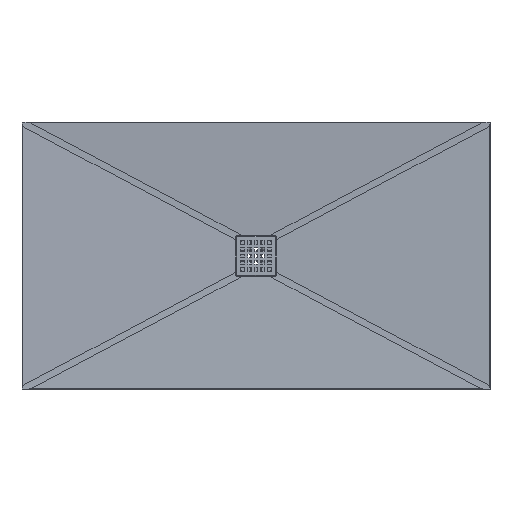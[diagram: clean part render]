
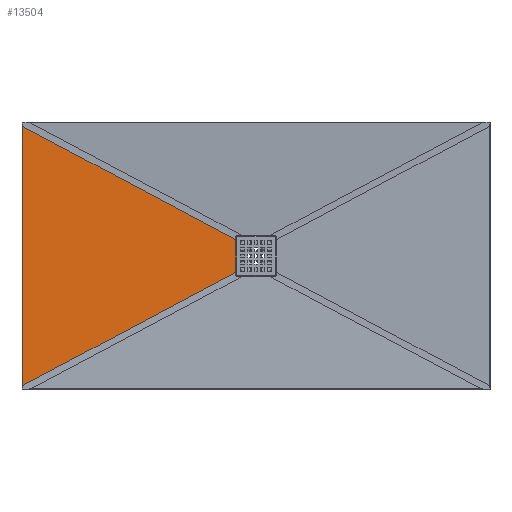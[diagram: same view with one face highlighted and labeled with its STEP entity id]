
A CAD part, top view. The second image highlights one B-rep face of the part: STEP entity #13504.
In plain terms, the highlighted free-form (B-spline) face has degree [1, 1] with [2, 2] control points.
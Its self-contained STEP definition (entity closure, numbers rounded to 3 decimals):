
#389 = CARTESIAN_POINT ( 'NONE',  ( -697.938, 387.6, -0.064 ) ) ;
#783 = CARTESIAN_POINT ( 'NONE',  ( -697.938, -387.6, -0.064 ) ) ;
#970 = CARTESIAN_POINT ( 'NONE',  ( -60.969, 36.86, -19.97 ) ) ;
#1206 = CARTESIAN_POINT ( 'NONE',  ( -170.641, 107.474, -16.542 ) ) ;
#1303 = FACE_OUTER_BOUND ( 'NONE', #8798, .T. ) ;
#1492 = CARTESIAN_POINT ( 'NONE',  ( -60.969, -49.21, -19.97 ) ) ;
#1767 = CARTESIAN_POINT ( 'NONE',  ( -626.275, 349.529, -2.304 ) ) ;
#1955 = CARTESIAN_POINT ( 'NONE',  ( -315.906, -184.646, -12.003 ) ) ;
#2031 = EDGE_CURVE ( 'NONE', #14220, #7721, #9765, .T. ) ;
#2153 = CARTESIAN_POINT ( 'NONE',  ( -60.969, 49.21, -19.97 ) ) ;
#2334 = CARTESIAN_POINT ( 'NONE',  ( -697.938, -387.6, -0.064 ) ) ;
#3309 = CARTESIAN_POINT ( 'NONE',  ( -60.969, 49.21, -19.97 ) ) ;
#4001 = B_SPLINE_CURVE_WITH_KNOTS ( 'NONE', 3,
 ( #37880, #17522, #5294, #35519, #14244 ),
 .UNSPECIFIED., .F., .F.,
 ( 4, 1, 4 ),
 ( 0., 246.328, 775.2 ),
 .UNSPECIFIED. ) ;
#4692 = ORIENTED_EDGE ( 'NONE', *, *, #9911, .F. ) ;
#5053 = CARTESIAN_POINT ( 'NONE',  ( -195.381, 120.617, -15.769 ) ) ;
#5234 = CARTESIAN_POINT ( 'NONE',  ( -286.287, -168.911, -12.929 ) ) ;
#5294 = CARTESIAN_POINT ( 'NONE',  ( -697.938, -47.091, -0.064 ) ) ;
#5447 = CARTESIAN_POINT ( 'NONE',  ( -80.486, 59.579, -19.36 ) ) ;
#7235 = CARTESIAN_POINT ( 'NONE',  ( -498.221, 281.5, -6.306 ) ) ;
#7431 = CARTESIAN_POINT ( 'NONE',  ( -445.241, 253.355, -7.961 ) ) ;
#7601 = CARTESIAN_POINT ( 'NONE',  ( -106.217, -73.249, -18.556 ) ) ;
#7721 = VERTEX_POINT ( 'NONE', #1492 ) ;
#7987 = CARTESIAN_POINT ( 'NONE',  ( -498.221, -281.5, -6.306 ) ) ;
#7994 = CARTESIAN_POINT ( 'NONE',  ( -254.873, 152.222, -13.91 ) ) ;
#8166 = VERTEX_POINT ( 'NONE', #783 ) ;
#8561 = CARTESIAN_POINT ( 'NONE',  ( -62.627, -50.091, -19.918 ) ) ;
#8798 = EDGE_LOOP ( 'NONE', ( #20443, #4692, #11813, #19230 ) ) ;
#8951 = CARTESIAN_POINT ( 'NONE',  ( -106.217, 73.249, -18.556 ) ) ;
#9765 = B_SPLINE_CURVE_WITH_KNOTS ( 'NONE', 3,
 ( #3309, #970, #24638, #21538, #12239 ),
 .UNSPECIFIED., .F., .F.,
 ( 4, 1, 4 ),
 ( 0., 37.05, 98.421 ),
 .UNSPECIFIED. ) ;
#9911 = EDGE_CURVE ( 'NONE', #8166, #15413, #4001, .T. ) ;
#10054 = CARTESIAN_POINT ( 'NONE',  ( -60.968, 58.799, -19.97 ) ) ;
#11813 = ORIENTED_EDGE ( 'NONE', *, *, #17305, .T. ) ;
#12218 = B_SPLINE_CURVE_WITH_KNOTS ( 'NONE', 3,
 ( #2334, #13987, #22507, #14179, #7987, #34292, #25781, #28119, #1955, #5234, #31588, #13401, #34679, #16887, #28713, #37029, #22322, #7601, #19424, #35648, #35269, #8561, #14938 ),
 .UNSPECIFIED., .F., .F.,
 ( 4, 1, 1, 1, 1, 1, 1, 1, 1, 1, 1, 1, 1, 1, 1, 1, 1, 1, 1, 1, 4 ),
 ( 2.336, 82.983, 165.224, 225.239, 295.255, 345.267, 400.528, 434.08, 470.682, 501.184, 540.836, 571.338, 602.701, 624.913, 644.657, 658.231, 673.04, 686.614, 700.466, 718.251, 723.885 ),
 .UNSPECIFIED. ) ;
#12239 = CARTESIAN_POINT ( 'NONE',  ( -60.969, -49.21, -19.97 ) ) ;
#13159 = EDGE_CURVE ( 'NONE', #15413, #14220, #23974, .T. ) ;
#13401 = CARTESIAN_POINT ( 'NONE',  ( -225.254, -136.487, -14.836 ) ) ;
#13504 = ADVANCED_FACE ( 'NONE', ( #1303 ), #18058, .F. ) ;
#13614 = CARTESIAN_POINT ( 'NONE',  ( -352.81, 204.251, -10.85 ) ) ;
#13987 = CARTESIAN_POINT ( 'NONE',  ( -674.207, -374.993, -0.806 ) ) ;
#14179 = CARTESIAN_POINT ( 'NONE',  ( -560.684, -314.684, -4.354 ) ) ;
#14220 = VERTEX_POINT ( 'NONE', #24962 ) ;
#14244 = CARTESIAN_POINT ( 'NONE',  ( -697.938, 387.6, -0.064 ) ) ;
#14938 = CARTESIAN_POINT ( 'NONE',  ( -60.969, -49.21, -19.97 ) ) ;
#15413 = VERTEX_POINT ( 'NONE', #389 ) ;
#16887 = CARTESIAN_POINT ( 'NONE',  ( -170.641, -107.474, -16.542 ) ) ;
#17305 = EDGE_CURVE ( 'NONE', #8166, #7721, #12218, .T. ) ;
#17522 = CARTESIAN_POINT ( 'NONE',  ( -697.938, -305.491, -0.064 ) ) ;
#18058 = B_SPLINE_SURFACE_WITH_KNOTS ( 'NONE', 1, 1, ( 
 ( #36584, #22052 ),
 ( #33257, #10054 ) ),
 .UNSPECIFIED., .F., .F., .F.,
 ( 2, 2 ),
 ( 2, 2 ),
 ( 0., 777.329 ),
 ( 0., 1. ),
 .UNSPECIFIED. ) ;
#19230 = ORIENTED_EDGE ( 'NONE', *, *, #2031, .F. ) ;
#19243 = CARTESIAN_POINT ( 'NONE',  ( -393.661, 225.953, -9.573 ) ) ;
#19424 = CARTESIAN_POINT ( 'NONE',  ( -93.79, -66.646, -18.944 ) ) ;
#20443 = ORIENTED_EDGE ( 'NONE', *, *, #13159, .F. ) ;
#20596 = CARTESIAN_POINT ( 'NONE',  ( -93.79, 66.646, -18.944 ) ) ;
#21538 = CARTESIAN_POINT ( 'NONE',  ( -60.969, -28.753, -19.97 ) ) ;
#22052 = CARTESIAN_POINT ( 'NONE',  ( -60.968, -58.799, -19.97 ) ) ;
#22322 = CARTESIAN_POINT ( 'NONE',  ( -118.564, -79.808, -18.17 ) ) ;
#22507 = CARTESIAN_POINT ( 'NONE',  ( -626.275, -349.529, -2.304 ) ) ;
#23974 = B_SPLINE_CURVE_WITH_KNOTS ( 'NONE', 3,
 ( #28323, #31215, #1767, #33733, #7235, #7431, #19243, #13614, #25424, #34301, #7994, #31597, #5053, #1206, #24866, #28719, #26371, #8951, #20596, #5447, #32356, #38208, #2153 ),
 .UNSPECIFIED., .F., .F.,
 ( 4, 1, 1, 1, 1, 1, 1, 1, 1, 1, 1, 1, 1, 1, 1, 1, 1, 1, 1, 1, 4 ),
 ( 2.336, 82.983, 165.224, 225.239, 295.255, 345.267, 400.528, 434.08, 470.682, 501.184, 540.836, 571.338, 602.701, 624.913, 644.657, 658.231, 673.04, 686.614, 700.466, 718.251, 723.885 ),
 .UNSPECIFIED. ) ;
#24638 = CARTESIAN_POINT ( 'NONE',  ( -60.969, 4.053, -19.97 ) ) ;
#24866 = CARTESIAN_POINT ( 'NONE',  ( -149.066, 96.012, -17.217 ) ) ;
#24962 = CARTESIAN_POINT ( 'NONE',  ( -60.969, 49.21, -19.97 ) ) ;
#25424 = CARTESIAN_POINT ( 'NONE',  ( -315.906, 184.646, -12.003 ) ) ;
#25781 = CARTESIAN_POINT ( 'NONE',  ( -393.661, -225.953, -9.573 ) ) ;
#26371 = CARTESIAN_POINT ( 'NONE',  ( -118.564, 79.808, -18.17 ) ) ;
#28119 = CARTESIAN_POINT ( 'NONE',  ( -352.81, -204.251, -10.85 ) ) ;
#28323 = CARTESIAN_POINT ( 'NONE',  ( -697.938, 387.6, -0.064 ) ) ;
#28713 = CARTESIAN_POINT ( 'NONE',  ( -149.066, -96.012, -17.217 ) ) ;
#28719 = CARTESIAN_POINT ( 'NONE',  ( -132.725, 87.331, -17.727 ) ) ;
#31215 = CARTESIAN_POINT ( 'NONE',  ( -674.207, 374.993, -0.806 ) ) ;
#31588 = CARTESIAN_POINT ( 'NONE',  ( -254.873, -152.222, -13.91 ) ) ;
#31597 = CARTESIAN_POINT ( 'NONE',  ( -225.254, 136.487, -14.836 ) ) ;
#32356 = CARTESIAN_POINT ( 'NONE',  ( -69.518, 53.752, -19.703 ) ) ;
#33257 = CARTESIAN_POINT ( 'NONE',  ( -697.939, 387.601, -0.064 ) ) ;
#33733 = CARTESIAN_POINT ( 'NONE',  ( -560.684, 314.684, -4.354 ) ) ;
#34292 = CARTESIAN_POINT ( 'NONE',  ( -445.241, -253.355, -7.961 ) ) ;
#34301 = CARTESIAN_POINT ( 'NONE',  ( -286.287, 168.911, -12.929 ) ) ;
#34679 = CARTESIAN_POINT ( 'NONE',  ( -195.381, -120.617, -15.769 ) ) ;
#35269 = CARTESIAN_POINT ( 'NONE',  ( -69.518, -53.752, -19.703 ) ) ;
#35519 = CARTESIAN_POINT ( 'NONE',  ( -697.938, 211.309, -0.064 ) ) ;
#35648 = CARTESIAN_POINT ( 'NONE',  ( -80.486, -59.579, -19.36 ) ) ;
#36584 = CARTESIAN_POINT ( 'NONE',  ( -697.939, -387.601, -0.064 ) ) ;
#37029 = CARTESIAN_POINT ( 'NONE',  ( -132.725, -87.331, -17.727 ) ) ;
#37880 = CARTESIAN_POINT ( 'NONE',  ( -697.938, -387.6, -0.064 ) ) ;
#38208 = CARTESIAN_POINT ( 'NONE',  ( -62.627, 50.091, -19.918 ) ) ;
